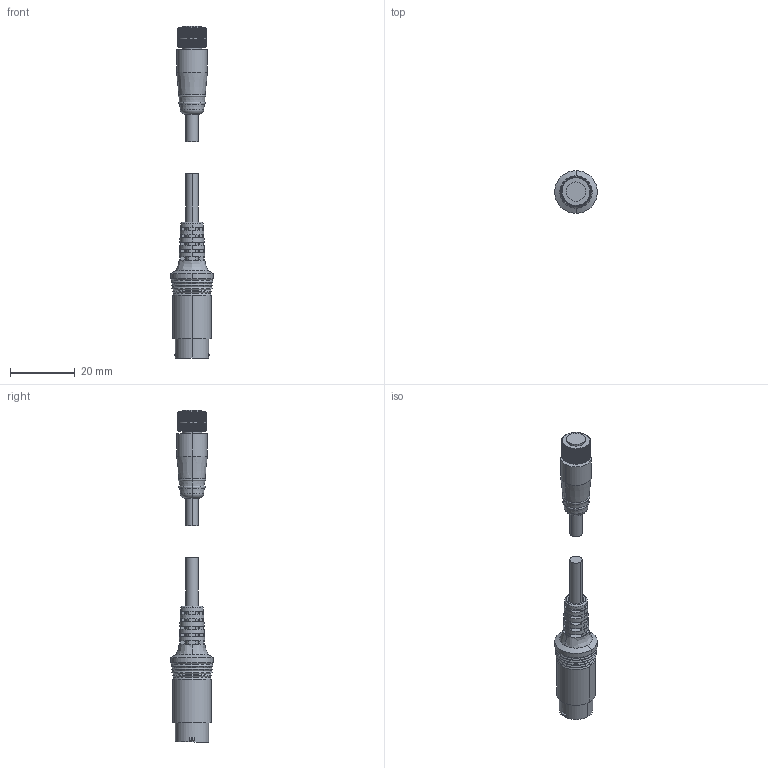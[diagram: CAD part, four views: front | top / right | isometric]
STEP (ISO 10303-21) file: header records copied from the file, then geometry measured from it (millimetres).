
FILE_DESCRIPTION (( 'STEP AP203' ), '1' );
FILE_NAME ('SA-CD-SHxM_step_01.STEP', '2020-01-27T02:17:14', ( '' ), ( '' ), 'SwSTEP 2.0', 'SolidWorks 2016', '' );
FILE_SCHEMA (( 'CONFIG_CONTROL_DESIGN' ));
Length unit declared in the file: millimetre
Products named in the file (3): SA-CD-SHxM_step_01; アブソ_コネクタケーブル_hp; CD1側ケーブル
Assembly tree (2 placements, depth 2):
  SA-CD-SHxM_step_01
    アブソ_コネクタケーブル_hp
    CD1側ケーブル
Bounding box: 13.2 x 13.2 x 102.8 mm (x, y, z)
Volume: 5054 mm3; surface area: 3417.7 mm2
Topology: 2 solids, 2 shells, 404 faces, 1163 edges, 762 vertices
Faces by surface type: plane 223, cylinder 100, cone 71, torus 6, bspline 4
Entity records: 14138 total; most frequent: CARTESIAN_POINT 3500, ORIENTED_EDGE 2326, DIRECTION 2007, EDGE_CURVE 1163, AXIS2_PLACEMENT_3D 777, VERTEX_POINT 762, VECTOR 453, LINE 453
